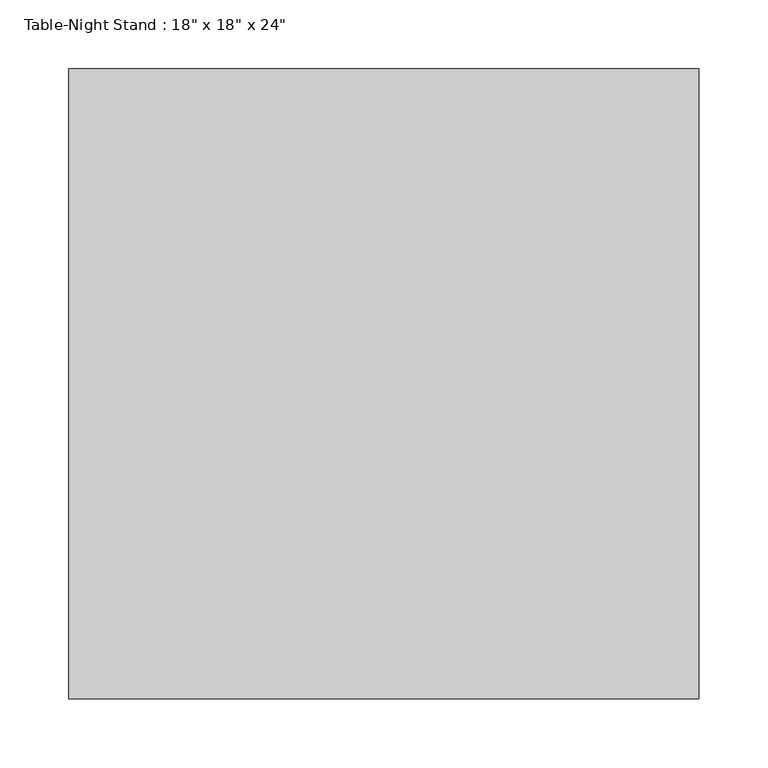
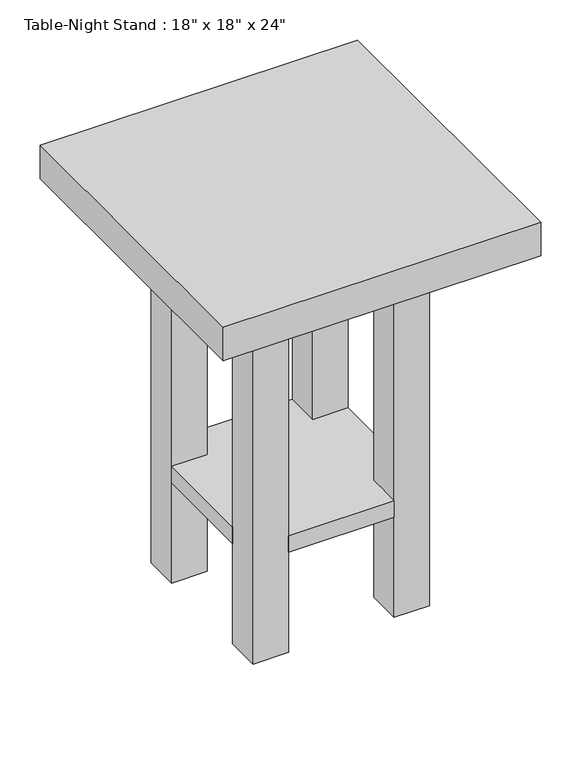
"""IFC4 building model written with IfcOpenShell, lengths in millimetres: furniture geometry."""

from ifc_helpers import new_model, si_unit, frame, origin, origin_with_axes, place, context, project, spatial, polyline, outline, extrude, source, transform, mapped, element, save


def furniture_50b11ffb(model_context):
    return source(origin(), model_context, "Body", "SweptSolid", [
        extrude(outline(polyline([(156.1336303, -355.6), (156.1336303, -304.8), (105.3336303, -304.8), (105.3336303, -152.4), (156.1336303, -152.4), (156.1336303, -101.6), (308.5336303, -101.6), (308.5336303, -152.4), (359.3336303, -152.4), (359.3336303, -304.8), (308.5336303, -304.8), (308.5336303, -355.6), (156.1336303, -355.6)])), frame((0.0, 0.0, 152.4), z_axis=(0.0, 0.0, 1.0), x_axis=(1.0, 0.0, 0.0)), (0.0, 0.0, 1.0), 25.4),
        extrude(outline(polyline([(156.1336303, -355.6), (105.3336303, -355.6), (105.3336303, -304.8), (156.1336303, -304.8), (156.1336303, -355.6)])), origin_with_axes(), (0.0, 0.0, 1.0), 558.8),
        extrude(outline(polyline([(156.1336303, -152.4), (105.3336303, -152.4), (105.3336303, -101.6), (156.1336303, -101.6), (156.1336303, -152.4)])), origin_with_axes(), (0.0, 0.0, 1.0), 558.8),
        extrude(outline(polyline([(359.3336303, -355.6), (308.5336303, -355.6), (308.5336303, -304.8), (359.3336303, -304.8), (359.3336303, -355.6)])), origin_with_axes(), (0.0, 0.0, 1.0), 558.8),
        extrude(outline(polyline([(359.3336303, -152.4), (308.5336303, -152.4), (308.5336303, -101.6), (359.3336303, -101.6), (359.3336303, -152.4)])), origin_with_axes(), (0.0, 0.0, 1.0), 558.8),
        extrude(outline(polyline([(460.9336303, 0.0), (460.9336303, -457.2), (3.7336303, -457.2), (3.7336303, 0.0), (460.9336303, 0.0)])), frame((0.0, 0.0, 558.8), z_axis=(0.0, 0.0, 1.0), x_axis=(1.0, 0.0, 0.0)), (0.0, 0.0, 1.0), 50.8),
    ])


if __name__ == "__main__":
    model = new_model("IFC4")
    model_context = context("Model", 3, world=origin())
    ifc_project = project(units=[si_unit("LENGTHUNIT", "METRE", prefix="MILLI")], contexts=[model_context])
    site = spatial("IfcSite", under=ifc_project)
    building = spatial("IfcBuilding", under=site)
    placement = place(None, origin())
    furniture_shape = furniture_50b11ffb(model_context)
    element("IfcFurniture", 1, ObjectType="Table-Night Stand : 18\" x 18\" x 24\"", at=placement, inside=building, context=model_context, shape_type="MappedRepresentation", body=[
        mapped(furniture_shape, transform((0.0, 0.0, 0.0), x_axis=(1.0, 0.0, 0.0), y_axis=(0.0, 1.0, 0.0), z_axis=(0.0, 0.0, 1.0))),
    ])
    save(model, "model.ifc")
